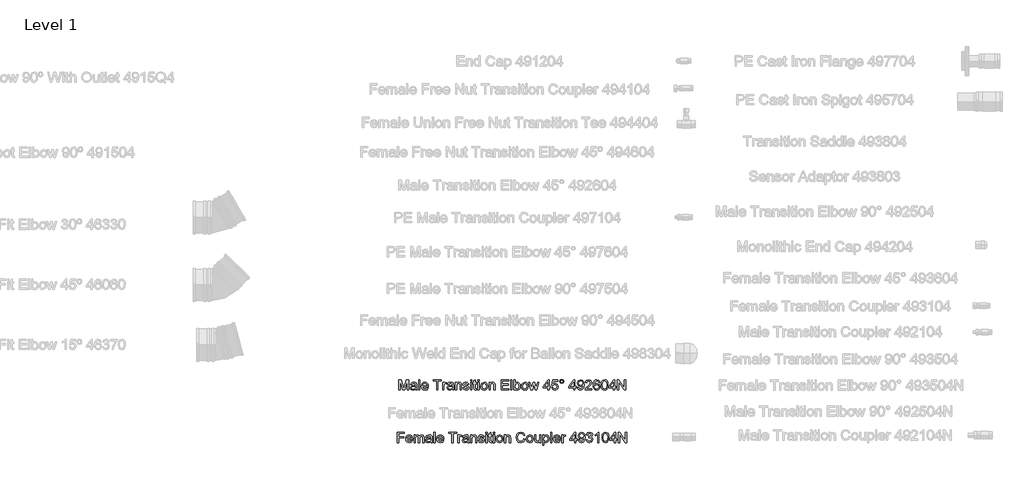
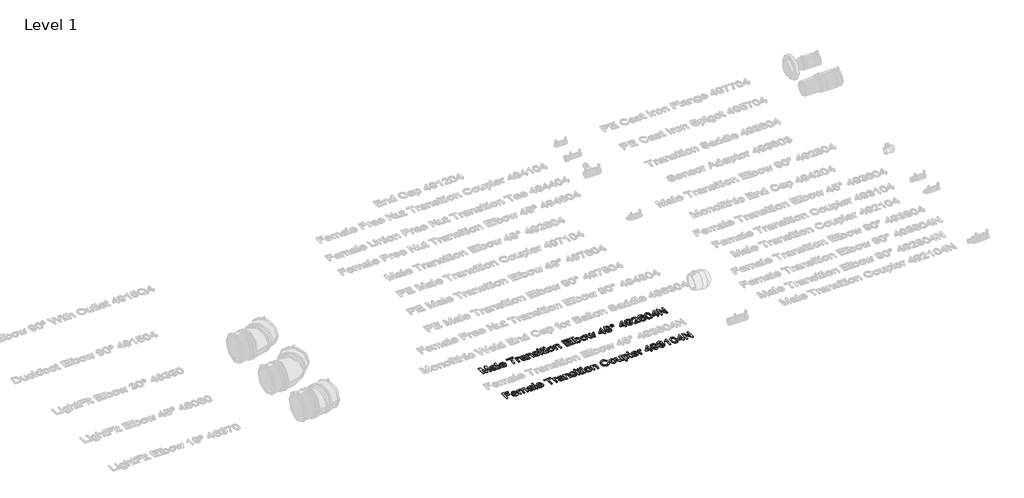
# One storey, part 18 of 38: 2 proxies.
"""IFC4 building model written with IfcOpenShell, lengths in millimetres."""

from ifc_helpers import new_model, si_unit, origin, origin_with_axes, place, context, project, spatial, polyline, outline, extrude, element, save

model = new_model("IFC4")

# Units and contexts
model_context = context("Model", 3, world=origin())
ifc_project = project(units=[si_unit("LENGTHUNIT", "METRE", prefix="MILLI")], contexts=[model_context])

# Site, building, storey
site = spatial("IfcSite", under=ifc_project)
building = spatial("IfcBuilding", under=site)
storey = spatial("IfcBuildingStorey", under=building, Name="Level 1", Elevation=0.0)

# Proxies
placement = place(None, origin())
element("IfcBuildingElementProxy", 1, Name="100 mm Arial", ObjectType="100 mm Arial", at=placement, inside=storey, context=model_context, shape_type="SweptSolid", body=[
    extrude(outline(polyline([(15697.4287831, 3234.446795), (15697.4287831, 3293.523718), (15710.1355139, 3293.523718), (15722.2220524, 3251.884295), (15724.6595524, 3243.1871796), (15727.2989754, 3252.6054488), (15739.1835908, 3293.523718), (15751.8903216, 3293.523718), (15751.8903216, 3234.446795), (15744.5057062, 3234.446795), (15744.5057062, 3286.1391027), (15729.6643601, 3234.446795), (15719.6547447, 3234.446795), (15704.8133985, 3286.1391027), (15704.8133985, 3234.446795), (15697.4287831, 3234.446795)])), origin_with_axes(), (0.0, 0.0, 1.0), 5.0),
    extrude(outline(polyline([(15791.5826293, 3239.9852565), (15784.4215716, 3234.9804488), (15776.5105139, 3233.523718), (15765.7869562, 3237.0285257), (15762.0441677, 3245.9852565), (15763.4576293, 3251.8266027), (15767.1715716, 3256.0669873), (15772.3422447, 3258.4900642), (15778.7316677, 3259.6006411), (15791.5393601, 3262.1391027), (15791.5826293, 3263.7833334), (15789.5489754, 3269.2352565), (15781.3855139, 3271.3698719), (15773.9143601, 3269.9491988), (15770.3518601, 3264.9083334), (15762.9672447, 3265.8314103), (15766.1619562, 3273.0429488), (15772.5946485, 3277.2689103), (15782.337437, 3278.7544873), (15791.2869562, 3277.4419873), (15796.3422447, 3274.1463142), (15798.6066677, 3269.134295), (15798.9672447, 3262.6727565), (15798.9672447, 3253.4852565), (15799.3422447, 3240.6559296), (15800.8133985, 3234.446795), (15793.4287831, 3234.446795), (15791.5826293, 3239.9852565)]), holes=[polyline([(15791.5826293, 3254.7544873), (15779.6691677, 3252.4900642), (15773.3158024, 3251.2929488), (15770.4383985, 3249.3458334), (15769.4287831, 3246.5044873), (15771.6283024, 3242.509295), (15778.0826293, 3240.9083334), (15785.5537831, 3242.6751603), (15790.3710908, 3246.9516027), (15791.5393601, 3252.6631411), (15791.5826293, 3254.7544873)])]), origin_with_axes(), (0.0, 0.0, 1.0), 5.0),
    extrude(outline(polyline([(15809.1210908, 3234.446795), (15809.1210908, 3293.523718), (15816.5057062, 3293.523718), (15816.5057062, 3234.446795), (15809.1210908, 3234.446795)])), origin_with_axes(), (0.0, 0.0, 1.0), 5.0),
    extrude(outline(polyline([(15857.9576293, 3247.3698719), (15865.1980139, 3246.446795), (15858.4263793, 3236.9131411), (15845.8133985, 3233.523718), (15837.1487351, 3234.9858575), (15830.4816677, 3239.3722757), (15826.2304658, 3246.3981171), (15824.8133985, 3255.7785257), (15826.2448889, 3265.4744392), (15830.5393601, 3272.7256411), (15837.1162831, 3277.2472757), (15845.3951293, 3278.7544873), (15853.4161629, 3277.2508815), (15859.8254177, 3272.7400642), (15864.0279418, 3265.5032853), (15865.4287831, 3255.821795), (15865.3855139, 3253.8314103), (15832.1980139, 3253.8314103), (15836.4456101, 3244.2400642), (15845.9576293, 3240.9083334), (15853.1980139, 3242.4516027), (15857.9576293, 3247.3698719)]), holes=[polyline([(15832.1980139, 3261.2160257), (15858.0441677, 3261.2160257), (15855.087437, 3267.9083334), (15845.3662831, 3271.3698719), (15836.2725331, 3268.6078527), (15832.1980139, 3261.2160257)])]), origin_with_axes(), (0.0, 0.0, 1.0), 5.0),
    extrude(outline(polyline([(15911.5826293, 3234.446795), (15911.5826293, 3286.1391027), (15892.1980139, 3286.1391027), (15892.1980139, 3293.523718), (15938.3518601, 3293.523718), (15938.3518601, 3286.1391027), (15918.9672447, 3286.1391027), (15918.9672447, 3234.446795), (15911.5826293, 3234.446795)])), origin_with_axes(), (0.0, 0.0, 1.0), 5.0),
    extrude(outline(polyline([(15945.7364754, 3234.446795), (15945.7364754, 3277.8314103), (15952.1980139, 3277.8314103), (15952.1980139, 3271.4131411), (15956.7845524, 3277.3266027), (15961.399937, 3278.7544873), (15968.8133985, 3276.4756411), (15966.3470524, 3269.8554488), (15961.1547447, 3271.3698719), (15956.9792639, 3269.9131411), (15954.3182062, 3265.8746796), (15953.1210908, 3257.2496796), (15953.1210908, 3234.446795), (15945.7364754, 3234.446795)])), origin_with_axes(), (0.0, 0.0, 1.0), 5.0),
    extrude(outline(polyline([(16001.1210908, 3239.9852565), (15993.9600331, 3234.9804488), (15986.0489754, 3233.523718), (15975.3254177, 3237.0285257), (15971.5826293, 3245.9852565), (15972.9960908, 3251.8266027), (15976.7100331, 3256.0669873), (15981.8807062, 3258.4900642), (15988.2701293, 3259.6006411), (16001.0778216, 3262.1391027), (16001.1210908, 3263.7833334), (15999.087437, 3269.2352565), (15990.9239754, 3271.3698719), (15983.4528216, 3269.9491988), (15979.8903216, 3264.9083334), (15972.5057062, 3265.8314103), (15975.7004177, 3273.0429488), (15982.1331101, 3277.2689103), (15991.8758985, 3278.7544873), (16000.8254177, 3277.4419873), (16005.8807062, 3274.1463142), (16008.1451293, 3269.134295), (16008.5057062, 3262.6727565), (16008.5057062, 3253.4852565), (16008.8807062, 3240.6559296), (16010.3518601, 3234.446795), (16002.9672447, 3234.446795), (16001.1210908, 3239.9852565)]), holes=[polyline([(16001.1210908, 3254.7544873), (15989.2076293, 3252.4900642), (15982.8542639, 3251.2929488), (15979.9768601, 3249.3458334), (15978.9672447, 3246.5044873), (15981.1667639, 3242.509295), (15987.6210908, 3240.9083334), (15995.0922447, 3242.6751603), (15999.9095524, 3246.9516027), (16001.0778216, 3252.6631411), (16001.1210908, 3254.7544873)])]), origin_with_axes(), (0.0, 0.0, 1.0), 5.0),
    extrude(outline(polyline([(16018.6595524, 3234.446795), (16018.6595524, 3277.8314103), (16026.0441677, 3277.8314103), (16026.0441677, 3271.773718), (16031.6908024, 3277.009295), (16039.399937, 3278.7544873), (16046.3734947, 3277.3482373), (16051.1331101, 3273.6559296), (16053.3470524, 3268.2256411), (16053.7364754, 3261.086218), (16053.7364754, 3234.446795), (16046.3518601, 3234.446795), (16046.3518601, 3260.0910257), (16045.5008985, 3266.6246796), (16042.493687, 3270.0790065), (16037.4239754, 3271.3698719), (16029.4119562, 3268.4708334), (16026.0441677, 3257.4660257), (16026.0441677, 3234.446795), (16018.6595524, 3234.446795)])), origin_with_axes(), (0.0, 0.0, 1.0), 5.0),
    extrude(outline(polyline([(16061.1210908, 3247.3698719), (16068.5057062, 3248.2929488), (16071.9239754, 3242.8121796), (16079.7557062, 3240.9083334), (16087.2845524, 3242.6535257), (16089.7364754, 3246.7496796), (16087.2701293, 3250.0669873), (16079.6691677, 3252.1727565), (16068.5489754, 3255.7857373), (16063.6956101, 3260.0044873), (16062.0441677, 3265.961218), (16063.3710908, 3271.4636219), (16066.9912831, 3275.6679488), (16071.6859947, 3277.853045), (16078.0393601, 3278.7544873), (16087.024937, 3277.304968), (16092.7364754, 3273.3818911), (16095.274937, 3266.7544873), (16087.8903216, 3265.8314103), (16085.1138793, 3269.9059296), (16078.6162831, 3271.3698719), (16071.5489754, 3269.9708334), (16069.4287831, 3266.711218), (16070.3085908, 3264.5621796), (16073.0633985, 3262.9323719), (16079.4239754, 3261.3602565), (16090.2629177, 3257.884295), (16095.2965716, 3253.946795), (16097.1210908, 3247.5285257), (16094.9792639, 3240.461218), (16088.7989754, 3235.3338142), (16079.6547447, 3233.523718), (16066.774937, 3237.0141027), (16061.1210908, 3247.3698719)])), origin_with_axes(), (0.0, 0.0, 1.0), 5.0),
    extrude(outline(polyline([(16105.4287831, 3286.1391027), (16105.4287831, 3293.523718), (16112.8133985, 3293.523718), (16112.8133985, 3286.1391027), (16105.4287831, 3286.1391027)])), origin_with_axes(), (0.0, 0.0, 1.0), 5.0),
    extrude(outline(polyline([(16105.4287831, 3234.446795), (16105.4287831, 3277.8314103), (16112.8133985, 3277.8314103), (16112.8133985, 3234.446795), (16105.4287831, 3234.446795)])), origin_with_axes(), (0.0, 0.0, 1.0), 5.0),
    extrude(outline(polyline([(16139.5826293, 3240.6054488), (16140.5057062, 3234.2304488), (16134.9816677, 3233.523718), (16128.7941677, 3234.7496796), (16125.7076293, 3237.9660257), (16124.8133985, 3246.3458334), (16124.8133985, 3270.446795), (16119.274937, 3270.446795), (16119.274937, 3277.8314103), (16124.8133985, 3277.8314103), (16124.8133985, 3288.3746796), (16132.1980139, 3292.7160257), (16132.1980139, 3277.8314103), (16139.5826293, 3277.8314103), (16139.5826293, 3270.446795), (16132.1980139, 3270.446795), (16132.1980139, 3246.5621796), (16132.587437, 3242.7544873), (16133.8494562, 3241.4059296), (16136.3662831, 3240.9083334), (16139.5826293, 3240.6054488)])), origin_with_axes(), (0.0, 0.0, 1.0), 5.0),
    extrude(outline(polyline([(16146.9672447, 3286.1391027), (16146.9672447, 3293.523718), (16154.3518601, 3293.523718), (16154.3518601, 3286.1391027), (16146.9672447, 3286.1391027)])), origin_with_axes(), (0.0, 0.0, 1.0), 5.0),
    extrude(outline(polyline([(16146.9672447, 3234.446795), (16146.9672447, 3277.8314103), (16154.3518601, 3277.8314103), (16154.3518601, 3234.446795), (16146.9672447, 3234.446795)])), origin_with_axes(), (0.0, 0.0, 1.0), 5.0),
    extrude(outline(polyline([(16163.5826293, 3256.1391027), (16165.1799851, 3266.5994392), (16169.9720524, 3273.9516027), (16182.9816677, 3278.7544873), (16190.7394802, 3277.2923478), (16196.9359947, 3272.9059296), (16200.9978937, 3265.9413863), (16202.3518601, 3256.7448719), (16199.9576293, 3243.6054488), (16192.9840716, 3236.1703527), (16182.9816677, 3233.523718), (16175.1301052, 3234.9804488), (16168.9408024, 3239.3506411), (16164.9221726, 3246.461218), (16163.5826293, 3256.1391027)]), holes=[polyline([(16170.9672447, 3256.1535257), (16174.3855139, 3244.7088142), (16182.9816677, 3240.9083334), (16191.5489754, 3244.7304488), (16194.9672447, 3256.384295), (16191.5273408, 3267.5693911), (16182.9816677, 3271.3698719), (16174.3855139, 3267.5838142), (16170.9672447, 3256.1535257)])]), origin_with_axes(), (0.0, 0.0, 1.0), 5.0),
    extrude(outline(polyline([(16210.6595524, 3234.446795), (16210.6595524, 3277.8314103), (16218.0441677, 3277.8314103), (16218.0441677, 3271.773718), (16223.6908024, 3277.009295), (16231.399937, 3278.7544873), (16238.3734947, 3277.3482373), (16243.1331101, 3273.6559296), (16245.3470524, 3268.2256411), (16245.7364754, 3261.086218), (16245.7364754, 3234.446795), (16238.3518601, 3234.446795), (16238.3518601, 3260.0910257), (16237.5008985, 3266.6246796), (16234.493687, 3270.0790065), (16229.4239754, 3271.3698719), (16221.4119562, 3268.4708334), (16218.0441677, 3257.4660257), (16218.0441677, 3234.446795), (16210.6595524, 3234.446795)])), origin_with_axes(), (0.0, 0.0, 1.0), 5.0),
    extrude(outline(polyline([(16279.8903216, 3234.446795), (16279.8903216, 3293.523718), (16322.3518601, 3293.523718), (16322.3518601, 3286.1391027), (16287.274937, 3286.1391027), (16287.274937, 3268.6006411), (16320.5057062, 3268.6006411), (16320.5057062, 3261.2160257), (16287.274937, 3261.2160257), (16287.274937, 3241.8314103), (16323.274937, 3241.8314103), (16323.274937, 3234.446795), (16279.8903216, 3234.446795)])), origin_with_axes(), (0.0, 0.0, 1.0), 5.0),
    extrude(outline(polyline([(16333.4287831, 3234.446795), (16333.4287831, 3293.523718), (16340.8133985, 3293.523718), (16340.8133985, 3234.446795), (16333.4287831, 3234.446795)])), origin_with_axes(), (0.0, 0.0, 1.0), 5.0),
    extrude(outline(polyline([(16359.274937, 3234.446795), (16351.8903216, 3234.446795), (16351.8903216, 3293.523718), (16359.274937, 3293.523718), (16359.274937, 3271.6150642), (16364.4456101, 3276.9696315), (16370.8710908, 3278.7544873), (16378.2701293, 3277.1463142), (16384.0105139, 3272.6246796), (16387.5369562, 3265.5934296), (16388.8133985, 3256.7881411), (16387.4918841, 3246.929968), (16383.5273408, 3239.5958334), (16377.7094322, 3235.0417469), (16370.8278216, 3233.523718), (16364.2617158, 3235.4816507), (16359.274937, 3241.3554488), (16359.274937, 3234.446795)]), holes=[polyline([(16359.274937, 3256.4419873), (16361.2941677, 3246.1150642), (16370.1932062, 3240.9083334), (16378.0970524, 3244.7448719), (16381.4287831, 3256.1823719), (16378.2340716, 3267.6631411), (16370.5105139, 3271.3698719), (16362.6066677, 3267.5333334), (16359.274937, 3256.4419873)])]), origin_with_axes(), (0.0, 0.0, 1.0), 5.0),
    extrude(outline(polyline([(16395.274937, 3256.1391027), (16396.8722927, 3266.5994392), (16401.6643601, 3273.9516027), (16414.6739754, 3278.7544873), (16422.4317879, 3277.2923478), (16428.6283024, 3272.9059296), (16432.6902014, 3265.9413863), (16434.0441677, 3256.7448719), (16431.649937, 3243.6054488), (16424.6763793, 3236.1703527), (16414.6739754, 3233.523718), (16406.8224129, 3234.9804488), (16400.6331101, 3239.3506411), (16396.6144802, 3246.461218), (16395.274937, 3256.1391027)]), holes=[polyline([(16402.6595524, 3256.1535257), (16406.0778216, 3244.7088142), (16414.6739754, 3240.9083334), (16423.2412831, 3244.7304488), (16426.6595524, 3256.384295), (16423.2196485, 3267.5693911), (16414.6739754, 3271.3698719), (16406.0778216, 3267.5838142), (16402.6595524, 3256.1535257)])]), origin_with_axes(), (0.0, 0.0, 1.0), 5.0),
    extrude(outline(polyline([(16449.5489754, 3234.446795), (16436.3518601, 3277.8314103), (16444.024937, 3277.8314103), (16451.5105139, 3252.5189103), (16453.7460908, 3243.4756411), (16455.5778216, 3252.1871796), (16461.5345524, 3277.8314103), (16470.3326293, 3277.8314103), (16476.2605139, 3252.259295), (16477.8903216, 3244.3698719), (16480.2268601, 3252.6919873), (16487.7268601, 3277.8314103), (16495.4287831, 3277.8314103), (16482.1307062, 3234.446795), (16473.2028216, 3234.446795), (16467.5345524, 3259.8891027), (16465.8903216, 3267.821795), (16458.5778216, 3234.446795), (16449.5489754, 3234.446795)])), origin_with_axes(), (0.0, 0.0, 1.0), 5.0),
    extrude(outline(polyline([(16545.7364754, 3234.446795), (16545.7364754, 3248.2929488), (16518.9672447, 3248.2929488), (16518.9672447, 3255.6775642), (16547.5826293, 3292.6006411), (16553.1210908, 3292.6006411), (16553.1210908, 3255.6775642), (16560.5057062, 3255.6775642), (16560.5057062, 3248.2929488), (16553.1210908, 3248.2929488), (16553.1210908, 3234.446795), (16545.7364754, 3234.446795)]), holes=[polyline([(16545.7364754, 3255.6775642), (16545.7364754, 3278.4948719), (16528.0537831, 3255.6775642), (16545.7364754, 3255.6775642)])]), origin_with_axes(), (0.0, 0.0, 1.0), 5.0),
    extrude(outline(polyline([(16566.9672447, 3250.1391027), (16574.3518601, 3251.0621796), (16578.0730139, 3243.4540065), (16585.7893601, 3240.9083334), (16595.0489754, 3244.4491988), (16598.3518601, 3253.8458334), (16595.2581101, 3262.6150642), (16585.9047447, 3265.8314103), (16579.4215716, 3264.5477565), (16575.274937, 3261.2160257), (16567.8903216, 3262.1391027), (16574.3518601, 3292.6006411), (16602.9672447, 3292.6006411), (16602.9672447, 3285.2160257), (16580.3230139, 3285.2160257), (16577.1643601, 3268.946795), (16587.9672447, 3273.2160257), (16600.5946485, 3267.9227565), (16605.7364754, 3254.3073719), (16601.1066677, 3240.6054488), (16594.4576293, 3235.2941507), (16585.7605139, 3233.523718), (16572.7292639, 3238.0741988), (16566.9672447, 3250.1391027)])), origin_with_axes(), (0.0, 0.0, 1.0), 5.0),
    extrude(outline(polyline([(16614.0441677, 3283.384295), (16617.2965716, 3291.2160257), (16625.1066677, 3294.446795), (16632.9672447, 3291.2160257), (16636.1980139, 3283.384295), (16632.9456101, 3275.5453527), (16625.1066677, 3272.2929488), (16617.2965716, 3275.523718), (16614.0441677, 3283.384295)]), holes=[polyline([(16618.6595524, 3283.3698719), (16620.556187, 3278.7977565), (16625.1355139, 3276.9083334), (16629.6859947, 3278.7977565), (16631.5826293, 3283.3698719), (16629.6859947, 3287.9419873), (16625.1355139, 3289.8314103), (16620.556187, 3287.9419873), (16618.6595524, 3283.3698719)])]), origin_with_axes(), (0.0, 0.0, 1.0), 5.0),
    extrude(outline(polyline([(16692.5057062, 3234.446795), (16692.5057062, 3248.2929488), (16665.7364754, 3248.2929488), (16665.7364754, 3255.6775642), (16694.3518601, 3292.6006411), (16699.8903216, 3292.6006411), (16699.8903216, 3255.6775642), (16707.274937, 3255.6775642), (16707.274937, 3248.2929488), (16699.8903216, 3248.2929488), (16699.8903216, 3234.446795), (16692.5057062, 3234.446795)]), holes=[polyline([(16692.5057062, 3255.6775642), (16692.5057062, 3278.4948719), (16674.8230139, 3255.6775642), (16692.5057062, 3255.6775642)])]), origin_with_axes(), (0.0, 0.0, 1.0), 5.0),
    extrude(outline(polyline([(16714.6595524, 3249.2160257), (16722.0441677, 3250.1391027), (16725.3614754, 3243.0934296), (16731.649937, 3240.9083334), (16737.6283024, 3242.3145834), (16741.681187, 3246.071795), (16744.0970524, 3252.4900642), (16745.1643601, 3261.0573719), (16739.2148408, 3256.9035257), (16731.1162831, 3254.7544873), (16718.7773408, 3260.0044873), (16713.7364754, 3273.836218), (16719.0225331, 3288.1150642), (16732.2701293, 3293.523718), (16742.7917639, 3290.4371796), (16750.0321485, 3281.6391027), (16752.5057062, 3265.1102565), (16750.0393601, 3247.1751603), (16742.7052254, 3237.0141027), (16731.3037831, 3233.523718), (16719.9528216, 3237.6415065), (16714.6595524, 3249.2160257)]), holes=[polyline([(16745.1210908, 3274.009295), (16741.9335908, 3282.8650642), (16733.4672447, 3286.1391027), (16724.5826293, 3282.6126603), (16721.1210908, 3273.4756411), (16724.3951293, 3265.290545), (16733.2653216, 3262.1391027), (16741.7821485, 3265.290545), (16745.1210908, 3274.009295)])]), origin_with_axes(), (0.0, 0.0, 1.0), 5.0),
    extrude(outline(polyline([(16796.8133985, 3241.8314103), (16796.8133985, 3234.446795), (16758.0441677, 3234.446795), (16758.837437, 3239.5381411), (16763.3230139, 3247.3770834), (16772.5682062, 3255.9371796), (16785.3182062, 3268.2400642), (16788.5057062, 3276.6054488), (16785.4984947, 3283.3770834), (16777.6451293, 3286.1391027), (16769.4600331, 3283.4419873), (16766.3518601, 3275.9852565), (16758.9672447, 3276.9083334), (16764.6283024, 3289.2689103), (16777.8037831, 3293.523718), (16791.0225331, 3288.7929488), (16795.8903216, 3277.0525642), (16794.5778216, 3270.0501603), (16790.2148408, 3262.8097757), (16779.6355139, 3252.6919873), (16771.1403216, 3245.5886219), (16767.8085908, 3241.8314103), (16796.8133985, 3241.8314103)])), origin_with_axes(), (0.0, 0.0, 1.0), 5.0),
    extrude(outline(polyline([(16842.0441677, 3277.8314103), (16834.6595524, 3276.9083334), (16831.8614754, 3283.0669873), (16824.462437, 3286.1391027), (16817.7989754, 3284.3506411), (16812.7581101, 3277.6366988), (16810.6595524, 3264.4756411), (16817.1715716, 3270.367468), (16825.2412831, 3272.2929488), (16837.7893601, 3267.0285257), (16842.9672447, 3253.4275642), (16840.5297447, 3243.2376603), (16833.8230139, 3236.0261219), (16824.1451293, 3233.523718), (16815.7671245, 3235.1823719), (16809.0946485, 3240.1583334), (16804.7298649, 3248.9419873), (16803.274937, 3262.023718), (16804.8903216, 3276.7316507), (16809.7364754, 3286.7881411), (16816.353062, 3291.8398238), (16824.9239754, 3293.523718), (16836.5922447, 3289.3554488), (16842.0441677, 3277.8314103)]), holes=[polyline([(16810.6595524, 3253.5429488), (16812.368687, 3247.1463142), (16816.9119562, 3242.5020834), (16823.5682062, 3240.9083334), (16832.2725331, 3244.211218), (16835.5826293, 3253.1823719), (16832.3158024, 3261.7713142), (16823.2653216, 3264.9083334), (16814.3302254, 3261.7713142), (16810.6595524, 3253.5429488)])]), origin_with_axes(), (0.0, 0.0, 1.0), 5.0),
    extrude(outline(polyline([(16849.4287831, 3263.509295), (16851.5994562, 3280.5068911), (16858.0465716, 3290.3073719), (16868.8133985, 3293.523718), (16877.4383985, 3291.6198719), (16883.3951293, 3286.1318911), (16886.8566677, 3277.3915065), (16888.1980139, 3263.509295), (16886.0489754, 3246.5838142), (16879.6234947, 3236.7616988), (16868.8133985, 3233.523718), (16861.1403216, 3234.929968), (16855.3133985, 3239.148718), (16850.899937, 3249.1403046), (16849.4287831, 3263.509295)]), holes=[polyline([(16856.8133985, 3263.523718), (16860.274937, 3245.1847757), (16868.8133985, 3240.9083334), (16877.3518601, 3245.1991988), (16880.8133985, 3263.523718), (16877.4672447, 3281.6535257), (16868.7268601, 3286.1391027), (16860.3903216, 3282.1871796), (16856.8133985, 3263.523718)])]), origin_with_axes(), (0.0, 0.0, 1.0), 5.0),
    extrude(outline(polyline([(16918.6595524, 3234.446795), (16918.6595524, 3248.2929488), (16891.8903216, 3248.2929488), (16891.8903216, 3255.6775642), (16920.5057062, 3292.6006411), (16926.0441677, 3292.6006411), (16926.0441677, 3255.6775642), (16933.4287831, 3255.6775642), (16933.4287831, 3248.2929488), (16926.0441677, 3248.2929488), (16926.0441677, 3234.446795), (16918.6595524, 3234.446795)]), holes=[polyline([(16918.6595524, 3255.6775642), (16918.6595524, 3278.4948719), (16900.9768601, 3255.6775642), (16918.6595524, 3255.6775642)])]), origin_with_axes(), (0.0, 0.0, 1.0), 5.0),
    extrude(outline(polyline([(16942.6595524, 3234.446795), (16942.6595524, 3293.523718), (16950.5633985, 3293.523718), (16981.4287831, 3246.7208334), (16981.4287831, 3293.523718), (16988.8133985, 3293.523718), (16988.8133985, 3234.446795), (16980.9095524, 3234.446795), (16950.0441677, 3281.2641027), (16950.0441677, 3234.446795), (16942.6595524, 3234.446795)])), origin_with_axes(), (0.0, 0.0, 1.0), 5.0),
])
element("IfcBuildingElementProxy", 2, Name="100 mm Arial", ObjectType="100 mm Arial", at=placement, inside=storey, context=model_context, shape_type="SweptSolid", body=[
    extrude(outline(polyline([(15688.9905276, 2934.7258229), (15688.9905276, 2993.802746), (15728.6828353, 2993.802746), (15728.6828353, 2986.4181306), (15696.375143, 2986.4181306), (15696.375143, 2968.879669), (15724.0674507, 2968.879669), (15724.0674507, 2961.4950536), (15696.375143, 2961.4950536), (15696.375143, 2934.7258229), (15688.9905276, 2934.7258229)])), origin_with_axes(), (0.0, 0.0, 1.0), 5.0),
    extrude(outline(polyline([(15768.2886045, 2947.6488998), (15775.5289891, 2946.7258229), (15768.7573545, 2937.192169), (15756.1443737, 2933.802746), (15747.4797103, 2935.2648854), (15740.812643, 2939.6513036), (15736.5614411, 2946.677145), (15735.1443737, 2956.0575536), (15736.5758641, 2965.7534671), (15740.8703353, 2973.004669), (15747.4472584, 2977.5263036), (15755.7261045, 2979.0335152), (15763.7471382, 2977.5299094), (15770.156393, 2973.0190921), (15774.358917, 2965.7823133), (15775.7597584, 2956.1008229), (15775.7164891, 2954.1104383), (15742.5289891, 2954.1104383), (15746.7765853, 2944.5190921), (15756.2886045, 2941.1873613), (15763.5289891, 2942.7306306), (15768.2886045, 2947.6488998)]), holes=[polyline([(15742.5289891, 2961.4950536), (15768.375143, 2961.4950536), (15765.4184122, 2968.1873613), (15755.6972584, 2971.6488998), (15746.6035084, 2968.8868806), (15742.5289891, 2961.4950536)])]), origin_with_axes(), (0.0, 0.0, 1.0), 5.0),
    extrude(outline(polyline([(15783.1443737, 2934.7258229), (15783.1443737, 2978.1104383), (15790.5289891, 2978.1104383), (15790.5289891, 2970.9710152), (15795.6059122, 2976.8195729), (15802.8318737, 2979.0335152), (15810.2309122, 2976.7763036), (15814.2982199, 2970.4517844), (15820.0602391, 2976.8880825), (15827.3366814, 2979.0335152), (15836.9929314, 2975.4638036), (15840.375143, 2964.4662075), (15840.375143, 2934.7258229), (15832.9905276, 2934.7258229), (15832.9905276, 2961.2931306), (15832.3054314, 2967.458996), (15829.8246622, 2970.4950536), (15825.6059122, 2971.6488998), (15818.343893, 2968.692169), (15815.4520661, 2959.2162075), (15815.4520661, 2934.7258229), (15808.0674507, 2934.7258229), (15808.0674507, 2962.115246), (15806.3583161, 2969.2690921), (15800.7549507, 2971.6488998), (15795.2886045, 2970.0623613), (15791.6539891, 2965.4181306), (15790.5289891, 2956.6056306), (15790.5289891, 2934.7258229), (15783.1443737, 2934.7258229)])), origin_with_axes(), (0.0, 0.0, 1.0), 5.0),
    extrude(outline(polyline([(15879.1443737, 2940.2642844), (15871.9833161, 2935.2594767), (15864.0722584, 2933.802746), (15853.3487007, 2937.3075536), (15849.6059122, 2946.2642844), (15851.0193737, 2952.1056306), (15854.7333161, 2956.3460152), (15859.9039891, 2958.7690921), (15866.2934122, 2959.879669), (15879.1011045, 2962.4181306), (15879.1443737, 2964.0623613), (15877.1107199, 2969.5142844), (15868.9472584, 2971.6488998), (15861.4761045, 2970.2282267), (15857.9136045, 2965.1873613), (15850.5289891, 2966.1104383), (15853.7237007, 2973.3219767), (15860.156393, 2977.5479383), (15869.8991814, 2979.0335152), (15878.8487007, 2977.7210152), (15883.9039891, 2974.4253421), (15886.1684122, 2969.4133229), (15886.5289891, 2962.9517844), (15886.5289891, 2953.7642844), (15886.9039891, 2940.9349575), (15888.375143, 2934.7258229), (15880.9905276, 2934.7258229), (15879.1443737, 2940.2642844)]), holes=[polyline([(15879.1443737, 2955.0335152), (15867.2309122, 2952.7690921), (15860.8775468, 2951.5719767), (15858.000143, 2949.6248613), (15856.9905276, 2946.7835152), (15859.1900468, 2942.7883229), (15865.6443737, 2941.1873613), (15873.1155276, 2942.9541883), (15877.9328353, 2947.2306306), (15879.1011045, 2952.942169), (15879.1443737, 2955.0335152)])]), origin_with_axes(), (0.0, 0.0, 1.0), 5.0),
    extrude(outline(polyline([(15896.6828353, 2934.7258229), (15896.6828353, 2993.802746), (15904.0674507, 2993.802746), (15904.0674507, 2934.7258229), (15896.6828353, 2934.7258229)])), origin_with_axes(), (0.0, 0.0, 1.0), 5.0),
    extrude(outline(polyline([(15945.5193737, 2947.6488998), (15952.7597584, 2946.7258229), (15945.9881237, 2937.192169), (15933.375143, 2933.802746), (15924.7104795, 2935.2648854), (15918.0434122, 2939.6513036), (15913.7922103, 2946.677145), (15912.375143, 2956.0575536), (15913.8066334, 2965.7534671), (15918.1011045, 2973.004669), (15924.6780276, 2977.5263036), (15932.9568737, 2979.0335152), (15940.9779074, 2977.5299094), (15947.3871622, 2973.0190921), (15951.5896862, 2965.7823133), (15952.9905276, 2956.1008229), (15952.9472584, 2954.1104383), (15919.7597584, 2954.1104383), (15924.0073545, 2944.5190921), (15933.5193737, 2941.1873613), (15940.7597584, 2942.7306306), (15945.5193737, 2947.6488998)]), holes=[polyline([(15919.7597584, 2961.4950536), (15945.6059122, 2961.4950536), (15942.6491814, 2968.1873613), (15932.9280276, 2971.6488998), (15923.8342776, 2968.8868806), (15919.7597584, 2961.4950536)])]), origin_with_axes(), (0.0, 0.0, 1.0), 5.0),
    extrude(outline(polyline([(15999.1443737, 2934.7258229), (15999.1443737, 2986.4181306), (15979.7597584, 2986.4181306), (15979.7597584, 2993.802746), (16025.9136045, 2993.802746), (16025.9136045, 2986.4181306), (16006.5289891, 2986.4181306), (16006.5289891, 2934.7258229), (15999.1443737, 2934.7258229)])), origin_with_axes(), (0.0, 0.0, 1.0), 5.0),
    extrude(outline(polyline([(16033.2982199, 2934.7258229), (16033.2982199, 2978.1104383), (16039.7597584, 2978.1104383), (16039.7597584, 2971.692169), (16044.3462968, 2977.6056306), (16048.9616814, 2979.0335152), (16056.375143, 2976.754669), (16053.9087968, 2970.1344767), (16048.7164891, 2971.6488998), (16044.5410084, 2970.192169), (16041.8799507, 2966.1537075), (16040.6828353, 2957.5287075), (16040.6828353, 2934.7258229), (16033.2982199, 2934.7258229)])), origin_with_axes(), (0.0, 0.0, 1.0), 5.0),
    extrude(outline(polyline([(16088.6828353, 2940.2642844), (16081.5217776, 2935.2594767), (16073.6107199, 2933.802746), (16062.8871622, 2937.3075536), (16059.1443737, 2946.2642844), (16060.5578353, 2952.1056306), (16064.2717776, 2956.3460152), (16069.4424507, 2958.7690921), (16075.8318737, 2959.879669), (16088.6395661, 2962.4181306), (16088.6828353, 2964.0623613), (16086.6491814, 2969.5142844), (16078.4857199, 2971.6488998), (16071.0145661, 2970.2282267), (16067.4520661, 2965.1873613), (16060.0674507, 2966.1104383), (16063.2621622, 2973.3219767), (16069.6948545, 2977.5479383), (16079.437643, 2979.0335152), (16088.3871622, 2977.7210152), (16093.4424507, 2974.4253421), (16095.7068737, 2969.4133229), (16096.0674507, 2962.9517844), (16096.0674507, 2953.7642844), (16096.4424507, 2940.9349575), (16097.9136045, 2934.7258229), (16090.5289891, 2934.7258229), (16088.6828353, 2940.2642844)]), holes=[polyline([(16088.6828353, 2955.0335152), (16076.7693737, 2952.7690921), (16070.4160084, 2951.5719767), (16067.5386045, 2949.6248613), (16066.5289891, 2946.7835152), (16068.7285084, 2942.7883229), (16075.1828353, 2941.1873613), (16082.6539891, 2942.9541883), (16087.4712968, 2947.2306306), (16088.6395661, 2952.942169), (16088.6828353, 2955.0335152)])]), origin_with_axes(), (0.0, 0.0, 1.0), 5.0),
    extrude(outline(polyline([(16106.2212968, 2934.7258229), (16106.2212968, 2978.1104383), (16113.6059122, 2978.1104383), (16113.6059122, 2972.052746), (16119.2525468, 2977.2883229), (16126.9616814, 2979.0335152), (16133.9352391, 2977.6272652), (16138.6948545, 2973.9349575), (16140.9087968, 2968.504669), (16141.2982199, 2961.365246), (16141.2982199, 2934.7258229), (16133.9136045, 2934.7258229), (16133.9136045, 2960.3700536), (16133.062643, 2966.9037075), (16130.0554314, 2970.3580344), (16124.9857199, 2971.6488998), (16116.9737007, 2968.7498613), (16113.6059122, 2957.7450536), (16113.6059122, 2934.7258229), (16106.2212968, 2934.7258229)])), origin_with_axes(), (0.0, 0.0, 1.0), 5.0),
    extrude(outline(polyline([(16148.6828353, 2947.6488998), (16156.0674507, 2948.5719767), (16159.4857199, 2943.0912075), (16167.3174507, 2941.1873613), (16174.8462968, 2942.9325536), (16177.2982199, 2947.0287075), (16174.8318737, 2950.3460152), (16167.2309122, 2952.4517844), (16156.1107199, 2956.0647652), (16151.2573545, 2960.2835152), (16149.6059122, 2966.240246), (16150.9328353, 2971.7426498), (16154.5530276, 2975.9469767), (16159.2477391, 2978.1320729), (16165.6011045, 2979.0335152), (16174.5866814, 2977.583996), (16180.2982199, 2973.660919), (16182.8366814, 2967.0335152), (16175.4520661, 2966.1104383), (16172.6756237, 2970.1849575), (16166.1780276, 2971.6488998), (16159.1107199, 2970.2498613), (16156.9905276, 2966.990246), (16157.8703353, 2964.8412075), (16160.625143, 2963.2113998), (16166.9857199, 2961.6392844), (16177.8246622, 2958.1633229), (16182.8583161, 2954.2258229), (16184.6828353, 2947.8075536), (16182.5410084, 2940.740246), (16176.3607199, 2935.6128421), (16167.2164891, 2933.802746), (16154.3366814, 2937.2931306), (16148.6828353, 2947.6488998)])), origin_with_axes(), (0.0, 0.0, 1.0), 5.0),
    extrude(outline(polyline([(16192.9905276, 2934.7258229), (16192.9905276, 2978.1104383), (16200.375143, 2978.1104383), (16200.375143, 2934.7258229), (16192.9905276, 2934.7258229)])), origin_with_axes(), (0.0, 0.0, 1.0), 5.0),
    extrude(outline(polyline([(16192.9905276, 2986.4181306), (16192.9905276, 2993.802746), (16200.375143, 2993.802746), (16200.375143, 2986.4181306), (16192.9905276, 2986.4181306)])), origin_with_axes(), (0.0, 0.0, 1.0), 5.0),
    extrude(outline(polyline([(16227.1443737, 2940.8844767), (16228.0674507, 2934.5094767), (16222.5434122, 2933.802746), (16216.3559122, 2935.0287075), (16213.2693737, 2938.2450536), (16212.375143, 2946.6248613), (16212.375143, 2970.7258229), (16206.8366814, 2970.7258229), (16206.8366814, 2978.1104383), (16212.375143, 2978.1104383), (16212.375143, 2988.6537075), (16219.7597584, 2992.9950536), (16219.7597584, 2978.1104383), (16227.1443737, 2978.1104383), (16227.1443737, 2970.7258229), (16219.7597584, 2970.7258229), (16219.7597584, 2946.8412075), (16220.1491814, 2943.0335152), (16221.4112007, 2941.6849575), (16223.9280276, 2941.1873613), (16227.1443737, 2940.8844767)])), origin_with_axes(), (0.0, 0.0, 1.0), 5.0),
    extrude(outline(polyline([(16234.5289891, 2934.7258229), (16234.5289891, 2978.1104383), (16241.9136045, 2978.1104383), (16241.9136045, 2934.7258229), (16234.5289891, 2934.7258229)])), origin_with_axes(), (0.0, 0.0, 1.0), 5.0),
    extrude(outline(polyline([(16234.5289891, 2986.4181306), (16234.5289891, 2993.802746), (16241.9136045, 2993.802746), (16241.9136045, 2986.4181306), (16234.5289891, 2986.4181306)])), origin_with_axes(), (0.0, 0.0, 1.0), 5.0),
    extrude(outline(polyline([(16251.1443737, 2956.4181306), (16252.7417295, 2966.8784671), (16257.5337968, 2974.2306306), (16270.5434122, 2979.0335152), (16278.3012247, 2977.5713758), (16284.4977391, 2973.1849575), (16288.5596382, 2966.2204142), (16289.9136045, 2957.0238998), (16287.5193737, 2943.8844767), (16280.5458161, 2936.4493806), (16270.5434122, 2933.802746), (16262.6918497, 2935.2594767), (16256.5025468, 2939.629669), (16252.483917, 2946.740246), (16251.1443737, 2956.4181306)]), holes=[polyline([(16258.5289891, 2956.4325536), (16261.9472584, 2944.9878421), (16270.5434122, 2941.1873613), (16279.1107199, 2945.0094767), (16282.5289891, 2956.6633229), (16279.0890853, 2967.848419), (16270.5434122, 2971.6488998), (16261.9472584, 2967.8628421), (16258.5289891, 2956.4325536)])]), origin_with_axes(), (0.0, 0.0, 1.0), 5.0),
    extrude(outline(polyline([(16298.2212968, 2934.7258229), (16298.2212968, 2978.1104383), (16305.6059122, 2978.1104383), (16305.6059122, 2972.052746), (16311.2525468, 2977.2883229), (16318.9616814, 2979.0335152), (16325.9352391, 2977.6272652), (16330.6948545, 2973.9349575), (16332.9087968, 2968.504669), (16333.2982199, 2961.365246), (16333.2982199, 2934.7258229), (16325.9136045, 2934.7258229), (16325.9136045, 2960.3700536), (16325.062643, 2966.9037075), (16322.0554314, 2970.3580344), (16316.9857199, 2971.6488998), (16308.9737007, 2968.7498613), (16305.6059122, 2957.7450536), (16305.6059122, 2934.7258229), (16298.2212968, 2934.7258229)])), origin_with_axes(), (0.0, 0.0, 1.0), 5.0),
    extrude(outline(polyline([(16408.9905276, 2955.7258229), (16416.375143, 2953.8219767), (16407.6203353, 2938.9301498), (16392.1587968, 2933.802746), (16376.7910084, 2937.6825536), (16367.7765853, 2948.9181306), (16364.6828353, 2964.7113998), (16368.1804314, 2980.7642844), (16378.125143, 2991.1705344), (16392.3174507, 2994.7258229), (16407.1083161, 2990.1248613), (16415.4520661, 2977.1729383), (16408.0674507, 2975.4133229), (16402.0097584, 2984.4926498), (16392.0289891, 2987.3412075), (16380.4761045, 2984.1825536), (16373.9496622, 2975.7017844), (16372.0674507, 2964.7258229), (16374.2958161, 2952.004669), (16381.2333161, 2943.8772652), (16391.4232199, 2941.1873613), (16402.7237007, 2944.8508229), (16408.9905276, 2955.7258229)])), origin_with_axes(), (0.0, 0.0, 1.0), 5.0),
    extrude(outline(polyline([(16423.7597584, 2956.4181306), (16425.3571141, 2966.8784671), (16430.1491814, 2974.2306306), (16443.1587968, 2979.0335152), (16450.9166093, 2977.5713758), (16457.1131237, 2973.1849575), (16461.1750228, 2966.2204142), (16462.5289891, 2957.0238998), (16460.1347584, 2943.8844767), (16453.1612007, 2936.4493806), (16443.1587968, 2933.802746), (16435.3072343, 2935.2594767), (16429.1179314, 2939.629669), (16425.0993016, 2946.740246), (16423.7597584, 2956.4181306)]), holes=[polyline([(16431.1443737, 2956.4325536), (16434.562643, 2944.9878421), (16443.1587968, 2941.1873613), (16451.7261045, 2945.0094767), (16455.1443737, 2956.6633229), (16451.7044699, 2967.848419), (16443.1587968, 2971.6488998), (16434.562643, 2967.8628421), (16431.1443737, 2956.4325536)])]), origin_with_axes(), (0.0, 0.0, 1.0), 5.0),
    extrude(outline(polyline([(16498.5289891, 2934.7258229), (16498.5289891, 2942.1825536), (16492.7453353, 2935.8976979), (16485.2020661, 2933.802746), (16478.2573545, 2935.2738998), (16473.468893, 2938.9662075), (16471.2693737, 2944.4037075), (16470.8366814, 2951.2690921), (16470.8366814, 2978.1104383), (16478.2212968, 2978.1104383), (16478.2212968, 2954.7450536), (16478.6684122, 2947.2162075), (16481.5890853, 2942.7955344), (16487.0914891, 2941.1873613), (16493.2573545, 2942.8315921), (16497.3318737, 2947.3099575), (16498.5289891, 2955.5383229), (16498.5289891, 2978.1104383), (16505.9136045, 2978.1104383), (16505.9136045, 2934.7258229), (16498.5289891, 2934.7258229)])), origin_with_axes(), (0.0, 0.0, 1.0), 5.0),
    extrude(outline(polyline([(16516.0674507, 2918.1104383), (16516.0674507, 2978.1104383), (16523.4520661, 2978.1104383), (16523.4520661, 2970.8700536), (16528.5578353, 2976.9926498), (16535.4520661, 2979.0335152), (16544.812643, 2976.177746), (16550.9280276, 2968.129669), (16552.9905276, 2956.7498613), (16550.6612007, 2944.785919), (16543.8967776, 2936.6368806), (16534.5578353, 2933.802746), (16528.1323545, 2935.6993806), (16523.4520661, 2940.4950536), (16523.4520661, 2918.1104383), (16516.0674507, 2918.1104383)]), holes=[polyline([(16523.4520661, 2956.0719767), (16526.6467776, 2944.8219767), (16534.3991814, 2941.1873613), (16542.3102391, 2944.9517844), (16545.6059122, 2956.6200536), (16542.3895661, 2967.8988998), (16534.7020661, 2971.6488998), (16526.8631237, 2967.660919), (16523.4520661, 2956.0719767)])]), origin_with_axes(), (0.0, 0.0, 1.0), 5.0),
    extrude(outline(polyline([(16561.2982199, 2934.7258229), (16561.2982199, 2993.802746), (16568.6828353, 2993.802746), (16568.6828353, 2934.7258229), (16561.2982199, 2934.7258229)])), origin_with_axes(), (0.0, 0.0, 1.0), 5.0),
    extrude(outline(polyline([(16610.1347584, 2947.6488998), (16617.375143, 2946.7258229), (16610.6035084, 2937.192169), (16597.9905276, 2933.802746), (16589.3258641, 2935.2648854), (16582.6587968, 2939.6513036), (16578.4075949, 2946.677145), (16576.9905276, 2956.0575536), (16578.422018, 2965.7534671), (16582.7164891, 2973.004669), (16589.2934122, 2977.5263036), (16597.5722584, 2979.0335152), (16605.593292, 2977.5299094), (16612.0025468, 2973.0190921), (16616.2050709, 2965.7823133), (16617.6059122, 2956.1008229), (16617.562643, 2954.1104383), (16584.375143, 2954.1104383), (16588.6227391, 2944.5190921), (16598.1347584, 2941.1873613), (16605.375143, 2942.7306306), (16610.1347584, 2947.6488998)]), holes=[polyline([(16584.375143, 2961.4950536), (16610.2212968, 2961.4950536), (16607.2645661, 2968.1873613), (16597.5434122, 2971.6488998), (16588.4496622, 2968.8868806), (16584.375143, 2961.4950536)])]), origin_with_axes(), (0.0, 0.0, 1.0), 5.0),
    extrude(outline(polyline([(16624.9905276, 2934.7258229), (16624.9905276, 2978.1104383), (16631.4520661, 2978.1104383), (16631.4520661, 2971.692169), (16636.0386045, 2977.6056306), (16640.6539891, 2979.0335152), (16648.0674507, 2976.754669), (16645.6011045, 2970.1344767), (16640.4087968, 2971.6488998), (16636.2333161, 2970.192169), (16633.5722584, 2966.1537075), (16632.375143, 2957.5287075), (16632.375143, 2934.7258229), (16624.9905276, 2934.7258229)])), origin_with_axes(), (0.0, 0.0, 1.0), 5.0),
    extrude(outline(polyline([(16697.9136045, 2934.7258229), (16697.9136045, 2948.5719767), (16671.1443737, 2948.5719767), (16671.1443737, 2955.9565921), (16699.7597584, 2992.879669), (16705.2982199, 2992.879669), (16705.2982199, 2955.9565921), (16712.6828353, 2955.9565921), (16712.6828353, 2948.5719767), (16705.2982199, 2948.5719767), (16705.2982199, 2934.7258229), (16697.9136045, 2934.7258229)]), holes=[polyline([(16697.9136045, 2955.9565921), (16697.9136045, 2978.7738998), (16680.2309122, 2955.9565921), (16697.9136045, 2955.9565921)])]), origin_with_axes(), (0.0, 0.0, 1.0), 5.0),
    extrude(outline(polyline([(16720.0674507, 2949.4950536), (16727.4520661, 2950.4181306), (16730.7693737, 2943.3724575), (16737.0578353, 2941.1873613), (16743.0362007, 2942.5936113), (16747.0890853, 2946.3508229), (16749.5049507, 2952.7690921), (16750.5722584, 2961.3363998), (16744.6227391, 2957.1825536), (16736.5241814, 2955.0335152), (16724.1852391, 2960.2835152), (16719.1443737, 2974.115246), (16724.4304314, 2988.3940921), (16737.6780276, 2993.802746), (16748.1996622, 2990.7162075), (16755.4400468, 2981.9181306), (16757.9136045, 2965.3892844), (16755.4472584, 2947.4541883), (16748.1131237, 2937.2931306), (16736.7116814, 2933.802746), (16725.3607199, 2937.9205344), (16720.0674507, 2949.4950536)]), holes=[polyline([(16750.5289891, 2974.2883229), (16747.3414891, 2983.1440921), (16738.875143, 2986.4181306), (16729.9905276, 2982.8916883), (16726.5289891, 2973.754669), (16729.8030276, 2965.5695729), (16738.6732199, 2962.4181306), (16747.1900468, 2965.5695729), (16750.5289891, 2974.2883229)])]), origin_with_axes(), (0.0, 0.0, 1.0), 5.0),
    extrude(outline(polyline([(16764.375143, 2950.4181306), (16771.7597584, 2951.3412075), (16775.8342776, 2943.567169), (16783.4568737, 2941.1873613), (16792.4280276, 2944.4613998), (16795.7597584, 2952.567169), (16792.4568737, 2960.2041883), (16784.062643, 2963.2258229), (16778.8847584, 2962.4181306), (16779.7068737, 2969.802746), (16789.2693737, 2971.8363998), (16792.9905276, 2978.3556306), (16790.2934122, 2984.1320729), (16783.3414891, 2986.4181306), (16776.3030276, 2984.1104383), (16772.6828353, 2977.1873613), (16765.2982199, 2978.1104383), (16771.3414891, 2989.692169), (16783.0818737, 2993.802746), (16791.9881237, 2991.7763036), (16798.218893, 2986.2378421), (16800.375143, 2978.7883229), (16798.3270661, 2971.9806306), (16792.2693737, 2967.0912075), (16800.3174507, 2962.0431306), (16803.1443737, 2952.4373613), (16797.4905276, 2939.2258229), (16783.1972584, 2933.802746), (16770.2453353, 2938.4325536), (16764.375143, 2950.4181306)])), origin_with_axes(), (0.0, 0.0, 1.0), 5.0),
    extrude(outline(polyline([(16837.2982199, 2934.7258229), (16829.9136045, 2934.7258229), (16829.9136045, 2980.7642844), (16822.9184122, 2975.7811113), (16815.1443737, 2972.052746), (16815.1443737, 2979.0335152), (16825.968893, 2985.942169), (16832.5386045, 2993.802746), (16837.2982199, 2993.802746), (16837.2982199, 2934.7258229)])), origin_with_axes(), (0.0, 0.0, 1.0), 5.0),
    extrude(outline(polyline([(16854.8366814, 2963.7883229), (16857.0073545, 2980.785919), (16863.4544699, 2990.5863998), (16874.2212968, 2993.802746), (16882.8462968, 2991.8988998), (16888.8030276, 2986.410919), (16892.2645661, 2977.6705344), (16893.6059122, 2963.7883229), (16891.4568737, 2946.8628421), (16885.031393, 2937.0407267), (16874.2212968, 2933.802746), (16866.5482199, 2935.208996), (16860.7212968, 2939.427746), (16856.3078353, 2949.4193325), (16854.8366814, 2963.7883229)]), holes=[polyline([(16862.2212968, 2963.802746), (16865.6828353, 2945.4638036), (16874.2212968, 2941.1873613), (16882.7597584, 2945.4782267), (16886.2212968, 2963.802746), (16882.875143, 2981.9325536), (16874.1347584, 2986.4181306), (16865.7982199, 2982.4662075), (16862.2212968, 2963.802746)])]), origin_with_axes(), (0.0, 0.0, 1.0), 5.0),
    extrude(outline(polyline([(16924.0674507, 2934.7258229), (16924.0674507, 2948.5719767), (16897.2982199, 2948.5719767), (16897.2982199, 2955.9565921), (16925.9136045, 2992.879669), (16931.4520661, 2992.879669), (16931.4520661, 2955.9565921), (16938.8366814, 2955.9565921), (16938.8366814, 2948.5719767), (16931.4520661, 2948.5719767), (16931.4520661, 2934.7258229), (16924.0674507, 2934.7258229)]), holes=[polyline([(16924.0674507, 2955.9565921), (16924.0674507, 2978.7738998), (16906.3847584, 2955.9565921), (16924.0674507, 2955.9565921)])]), origin_with_axes(), (0.0, 0.0, 1.0), 5.0),
    extrude(outline(polyline([(16948.0674507, 2934.7258229), (16948.0674507, 2993.802746), (16955.9712968, 2993.802746), (16986.8366814, 2946.9998613), (16986.8366814, 2993.802746), (16994.2212968, 2993.802746), (16994.2212968, 2934.7258229), (16986.3174507, 2934.7258229), (16955.4520661, 2981.5431306), (16955.4520661, 2934.7258229), (16948.0674507, 2934.7258229)])), origin_with_axes(), (0.0, 0.0, 1.0), 5.0),
])

save(model, "model.ifc")
